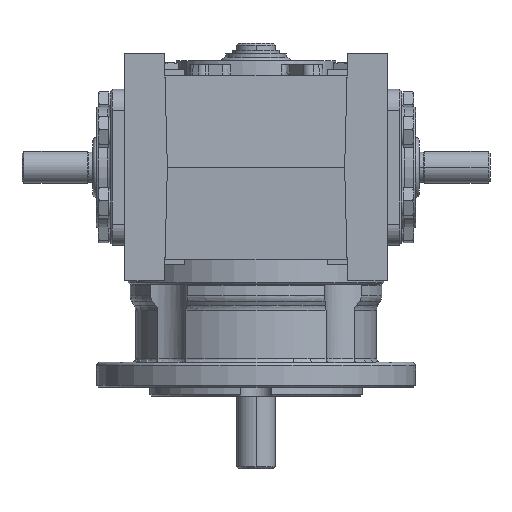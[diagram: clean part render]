
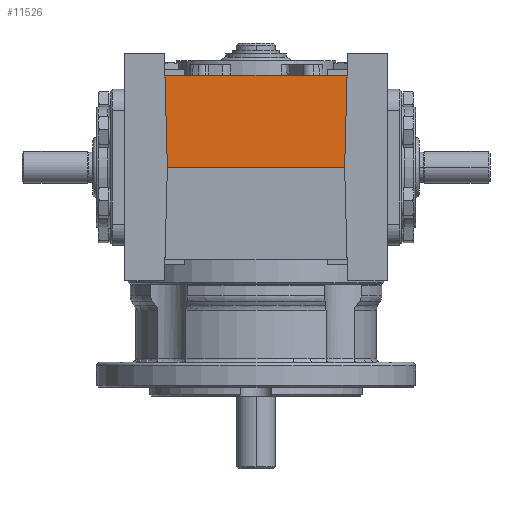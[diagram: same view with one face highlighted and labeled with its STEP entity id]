
A CAD part, front view. The second image highlights one B-rep face of the part: STEP entity #11526.
In plain terms, the highlighted planar face has unit normal (0, -1, 0.026).
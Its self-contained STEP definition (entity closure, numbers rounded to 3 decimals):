
#1153 = CARTESIAN_POINT ( 'NONE',  ( -32.558, -51.819, 26. ) ) ;
#1262 = CARTESIAN_POINT ( 'NONE',  ( 24.958, -52.542, -1.608 ) ) ;
#1615 = CARTESIAN_POINT ( 'NONE',  ( 25., -52.5, 0. ) ) ;
#1753 = FACE_OUTER_BOUND ( 'NONE', #13078, .T. ) ;
#2164 = DIRECTION ( 'NONE',  ( 1., 0., 0. ) ) ;
#5060 = DIRECTION ( 'NONE',  ( -0.026, 0.026, 0.999 ) ) ;
#5734 = PLANE ( 'NONE',  #7125 ) ;
#7125 = AXIS2_PLACEMENT_3D ( 'NONE', #22266, #8095, #24608 ) ;
#7273 = EDGE_CURVE ( 'NONE', #10171, #15457, #12171, .T. ) ;
#7409 = CARTESIAN_POINT ( 'NONE',  ( -25.008, -52.492, 0.301 ) ) ;
#8095 = DIRECTION ( 'NONE',  ( 0., -1., 0.026 ) ) ;
#8943 = LINE ( 'NONE', #1262, #21533 ) ;
#9759 = LINE ( 'NONE', #23373, #15306 ) ;
#10170 = VERTEX_POINT ( 'NONE', #16793 ) ;
#10171 = VERTEX_POINT ( 'NONE', #12123 ) ;
#11435 = VECTOR ( 'NONE', #5060, 1000. ) ;
#11526 = ADVANCED_FACE ( 'NONE', ( #1753 ), #5734, .T. ) ;
#12123 = CARTESIAN_POINT ( 'NONE',  ( -25., -52.5, 0. ) ) ;
#12171 = LINE ( 'NONE', #7409, #11435 ) ;
#12757 = EDGE_CURVE ( 'NONE', #15457, #10170, #21624, .T. ) ;
#13078 = EDGE_LOOP ( 'NONE', ( #15213, #21782, #21509, #22899 ) ) ;
#14560 = VECTOR ( 'NONE', #29415, 1000. ) ;
#15213 = ORIENTED_EDGE ( 'NONE', *, *, #18736, .F. ) ;
#15306 = VECTOR ( 'NONE', #2164, 1000. ) ;
#15457 = VERTEX_POINT ( 'NONE', #28559 ) ;
#15708 = EDGE_CURVE ( 'NONE', #10171, #16151, #9759, .T. ) ;
#16151 = VERTEX_POINT ( 'NONE', #1615 ) ;
#16793 = CARTESIAN_POINT ( 'NONE',  ( 25.681, -51.819, 26. ) ) ;
#17764 = DIRECTION ( 'NONE',  ( -0.026, -0.026, -0.999 ) ) ;
#18736 = EDGE_CURVE ( 'NONE', #10170, #16151, #8943, .T. ) ;
#21509 = ORIENTED_EDGE ( 'NONE', *, *, #7273, .F. ) ;
#21533 = VECTOR ( 'NONE', #17764, 1000. ) ;
#21624 = LINE ( 'NONE', #1153, #14560 ) ;
#21782 = ORIENTED_EDGE ( 'NONE', *, *, #12757, .F. ) ;
#22266 = CARTESIAN_POINT ( 'NONE',  ( -36.5, -52.5, 0. ) ) ;
#22899 = ORIENTED_EDGE ( 'NONE', *, *, #15708, .T. ) ;
#23373 = CARTESIAN_POINT ( 'NONE',  ( -36.5, -52.5, 0. ) ) ;
#24608 = DIRECTION ( 'NONE',  ( 0., -0.026, -1. ) ) ;
#28559 = CARTESIAN_POINT ( 'NONE',  ( -25.681, -51.819, 26. ) ) ;
#29415 = DIRECTION ( 'NONE',  ( 1., 0., 0. ) ) ;
